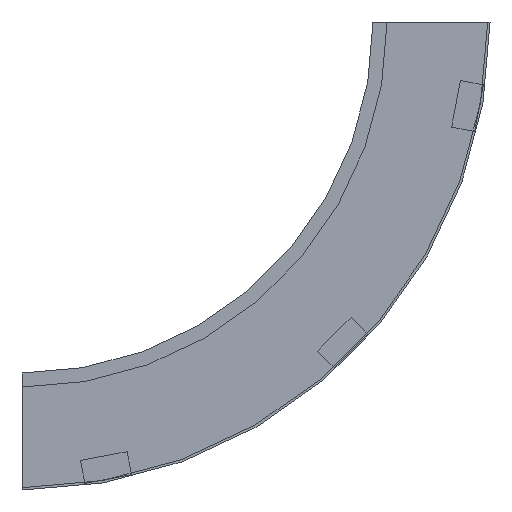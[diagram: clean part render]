
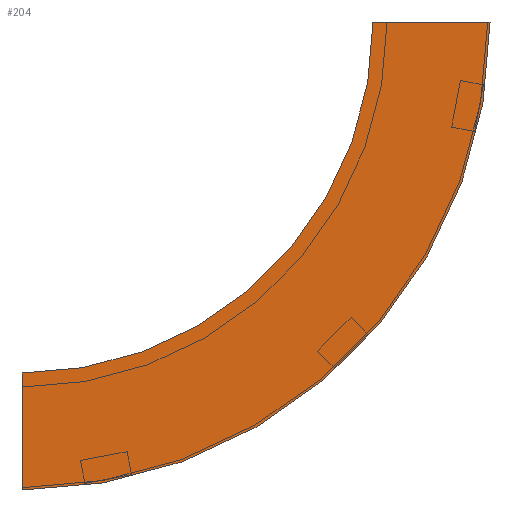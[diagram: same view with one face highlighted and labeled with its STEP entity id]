
A CAD part, left-side view. The second image highlights one B-rep face of the part: STEP entity #204.
In plain terms, the highlighted planar face has unit normal (-1, 0, 0) as drawn and (1, 0, 0) by its records, which use the part's own axes.
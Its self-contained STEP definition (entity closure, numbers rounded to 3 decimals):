
#5 = ORIENTED_EDGE ( 'NONE', *, *, #249, .T. ) ;
#14 = CIRCLE ( 'NONE', #71, 400. ) ;
#27 = DIRECTION ( 'NONE',  ( 0., 1., 0. ) ) ;
#42 = CARTESIAN_POINT ( 'NONE',  ( 0., 300., 0. ) ) ;
#43 = DIRECTION ( 'NONE',  ( 0., -1., 0. ) ) ;
#51 = VERTEX_POINT ( 'NONE', #248 ) ;
#71 = AXIS2_PLACEMENT_3D ( 'NONE', #252, #522, #484 ) ;
#85 = EDGE_LOOP ( 'NONE', ( #485, #364, #317, #5 ) ) ;
#97 = LINE ( 'NONE', #220, #298 ) ;
#123 = CIRCLE ( 'NONE', #310, 300. ) ;
#127 = DIRECTION ( 'NONE',  ( 0., 0., 1. ) ) ;
#140 = VERTEX_POINT ( 'NONE', #188 ) ;
#188 = CARTESIAN_POINT ( 'NONE',  ( 0., -100., 0. ) ) ;
#189 = CARTESIAN_POINT ( 'NONE',  ( 0., -100., 0. ) ) ;
#204 = ADVANCED_FACE ( 'NONE', ( #318 ), #270, .F. ) ;
#206 = CARTESIAN_POINT ( 'NONE',  ( 0., 300., -400. ) ) ;
#220 = CARTESIAN_POINT ( 'NONE',  ( 0., -100., 0. ) ) ;
#228 = DIRECTION ( 'NONE',  ( 1., 0., 0. ) ) ;
#239 = EDGE_CURVE ( 'NONE', #140, #467, #97, .T. ) ;
#248 = CARTESIAN_POINT ( 'NONE',  ( 0., 300., -400. ) ) ;
#249 = EDGE_CURVE ( 'NONE', #51, #350, #313, .T. ) ;
#252 = CARTESIAN_POINT ( 'NONE',  ( 0., 300., 0. ) ) ;
#270 = PLANE ( 'NONE',  #530 ) ;
#298 = VECTOR ( 'NONE', #27, 1000. ) ;
#310 = AXIS2_PLACEMENT_3D ( 'NONE', #42, #228, #43 ) ;
#313 = LINE ( 'NONE', #206, #502 ) ;
#317 = ORIENTED_EDGE ( 'NONE', *, *, #490, .T. ) ;
#318 = FACE_OUTER_BOUND ( 'NONE', #85, .T. ) ;
#343 = CARTESIAN_POINT ( 'NONE',  ( 0., 0., 0. ) ) ;
#350 = VERTEX_POINT ( 'NONE', #516 ) ;
#364 = ORIENTED_EDGE ( 'NONE', *, *, #239, .F. ) ;
#440 = DIRECTION ( 'NONE',  ( 0., 0., 1. ) ) ;
#448 = DIRECTION ( 'NONE',  ( -1., 0., 0. ) ) ;
#467 = VERTEX_POINT ( 'NONE', #343 ) ;
#484 = DIRECTION ( 'NONE',  ( 0., -1., 0. ) ) ;
#485 = ORIENTED_EDGE ( 'NONE', *, *, #568, .F. ) ;
#490 = EDGE_CURVE ( 'NONE', #140, #51, #14, .T. ) ;
#502 = VECTOR ( 'NONE', #127, 1000. ) ;
#516 = CARTESIAN_POINT ( 'NONE',  ( 0., 300., -300. ) ) ;
#522 = DIRECTION ( 'NONE',  ( 1., 0., 0. ) ) ;
#530 = AXIS2_PLACEMENT_3D ( 'NONE', #189, #448, #440 ) ;
#568 = EDGE_CURVE ( 'NONE', #467, #350, #123, .T. ) ;
